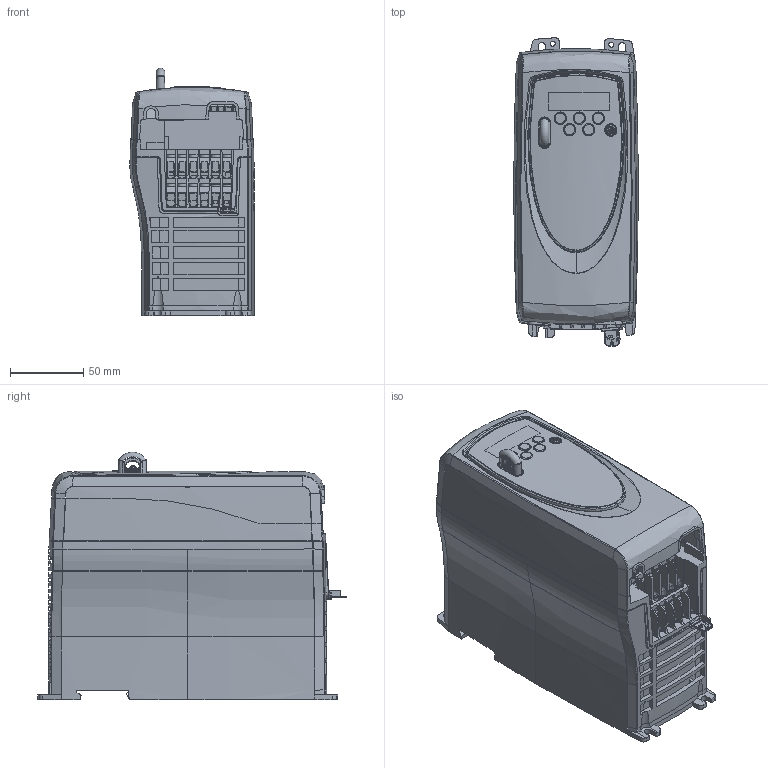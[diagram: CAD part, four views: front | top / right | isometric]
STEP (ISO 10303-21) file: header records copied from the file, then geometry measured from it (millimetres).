
FILE_DESCRIPTION((''),'2;1');
FILE_NAME('PK-SEQ-SK-B-ALL-LOGISTICK','2006-12-19T',('summne01'),(''),'PRO/ENGINEER BY PARAMETRIC TECHNOLOGY CORPORATION, 2006320','PRO/ENGINEER BY PARAMETRIC TECHNOLOGY CORPORATION, 2006320','');
FILE_SCHEMA(('CONFIG_CONTROL_DESIGN'));
Length unit declared in the file: millimetre
Products named in the file (1): PK-SEQ-SK-B-ALL-LOGISTICK
Bounding box: 85 x 210.93 x 169.06 mm (x, y, z)
Surface area: 154153 mm2 (no closed solid volume)
Topology: 0 solids, 134 shells, 830 faces, 3613 edges, 2828 vertices
Faces by surface type: plane 419, cylinder 252, bspline 91, cone 53, torus 12, extrusion 2, sphere 1
Entity records: 45574 total; most frequent: CARTESIAN_POINT 18481, ORIENTED_EDGE 5076, DIRECTION 4807, EDGE_CURVE 3612, VERTEX_POINT 2828, VECTOR 2111, LINE 2109, AXIS2_PLACEMENT_3D 1348
